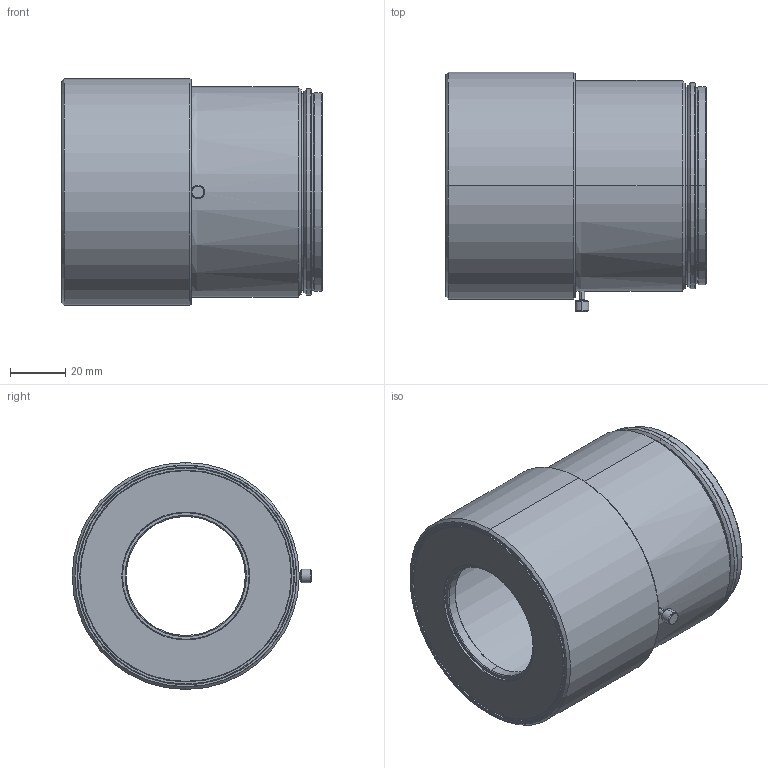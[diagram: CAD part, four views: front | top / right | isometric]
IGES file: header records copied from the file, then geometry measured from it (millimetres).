
Start section: SolidWorks IGES file using analytic representation for surfaces
Bounding box: 94.7 x 87.05 x 82.5 mm (x, y, z)
Surface area: 109442.9 mm2 (no closed solid volume)
Topology: 0 solids, 0 shells, 116 faces, 2734 edges, 2734 vertices
Faces by surface type: revolution 92, bspline 24
